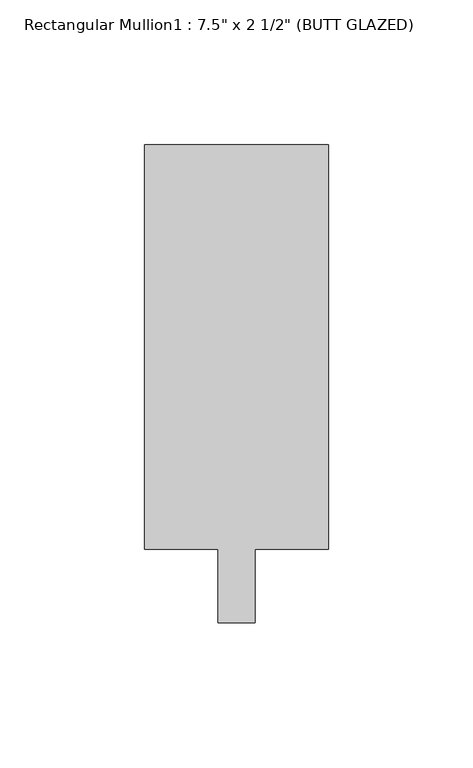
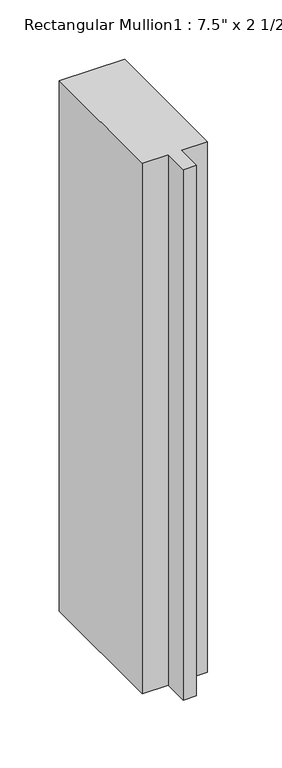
"""IFC4 building model written with IfcOpenShell, lengths in millimetres: member geometry."""

from ifc_helpers import new_model, si_unit, frame, origin, place, context, project, spatial, polyline, outline, extrude, source, transform, mapped, element, save


def member_38619e4e(model_context):
    return source(origin(), model_context, "Body", "SweptSolid", [
        extrude(outline(polyline([(31.75, 165.1), (31.75, 25.4), (6.35, 25.4), (6.35, 0.0), (-6.35, 0.0), (-6.35, 25.4), (-31.75, 25.4), (-31.75, 165.1), (31.75, 165.1)])), frame((0.0, 0.0, -546.1), z_axis=(0.0, 0.0, 1.0), x_axis=(1.0, 0.0, 0.0)), (0.0, 0.0, 1.0), 546.1),
    ])


if __name__ == "__main__":
    model = new_model("IFC4")
    model_context = context("Model", 3, world=origin())
    ifc_project = project(units=[si_unit("LENGTHUNIT", "METRE", prefix="MILLI")], contexts=[model_context])
    site = spatial("IfcSite", under=ifc_project)
    building = spatial("IfcBuilding", under=site)
    placement = place(None, origin())
    member_shape = member_38619e4e(model_context)
    element("IfcMember", 1, ObjectType="Rectangular Mullion1 : 7.5\" x 2 1/2\" (BUTT GLAZED)", at=placement, inside=building, context=model_context, shape_type="MappedRepresentation", body=[
        mapped(member_shape, transform((0.0, 0.0, 0.0), x_axis=(1.0, 0.0, 0.0), y_axis=(0.0, 1.0, 0.0), z_axis=(0.0, 0.0, 1.0))),
    ])
    save(model, "model.ifc")
